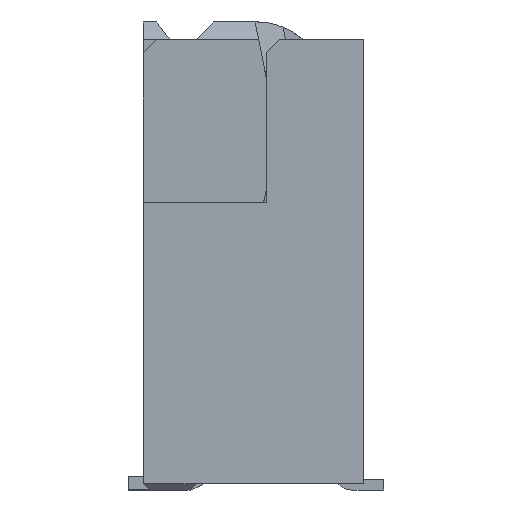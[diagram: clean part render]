
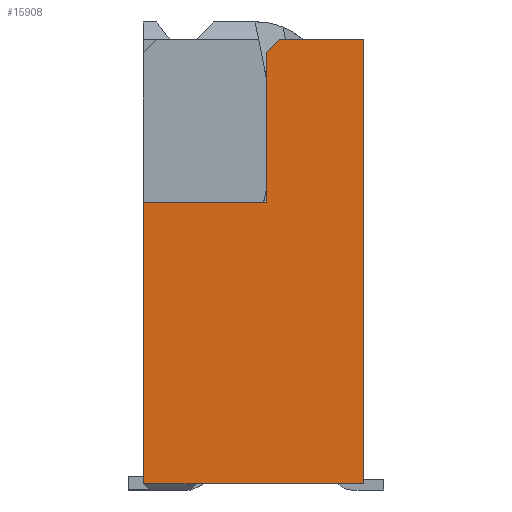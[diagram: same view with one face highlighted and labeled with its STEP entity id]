
A CAD part, left-side view. The second image highlights one B-rep face of the part: STEP entity #15908.
In plain terms, the highlighted planar face has unit normal (-1, 0, 0).
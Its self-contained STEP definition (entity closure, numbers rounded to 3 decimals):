
#20 = CARTESIAN_POINT ( 'NONE',  ( -10.362, -11.589, 10.562 ) ) ;
#155 = VECTOR ( 'NONE', #10030, 1000. ) ;
#423 = ORIENTED_EDGE ( 'NONE', *, *, #14864, .F. ) ;
#770 = ORIENTED_EDGE ( 'NONE', *, *, #4774, .T. ) ;
#805 = CARTESIAN_POINT ( 'NONE',  ( -10.362, -11.589, 5.512 ) ) ;
#862 = VERTEX_POINT ( 'NONE', #18609 ) ;
#968 = DIRECTION ( 'NONE',  ( 0., 0., -1. ) ) ;
#1142 = LINE ( 'NONE', #11809, #12386 ) ;
#1173 = EDGE_CURVE ( 'NONE', #4534, #16111, #5350, .T. ) ;
#1195 = EDGE_CURVE ( 'NONE', #13524, #16111, #5537, .T. ) ;
#2044 = EDGE_LOOP ( 'NONE', ( #770, #13965, #15788, #15135, #8833, #11075, #16468, #423 ) ) ;
#2511 = VECTOR ( 'NONE', #3486, 1000. ) ;
#2830 = DIRECTION ( 'NONE',  ( 0., 0., -1. ) ) ;
#2848 = VERTEX_POINT ( 'NONE', #12592 ) ;
#3486 = DIRECTION ( 'NONE',  ( 0., 1., 0. ) ) ;
#4534 = VERTEX_POINT ( 'NONE', #14751 ) ;
#4774 = EDGE_CURVE ( 'NONE', #10839, #13524, #12545, .T. ) ;
#4961 = VECTOR ( 'NONE', #13984, 1000. ) ;
#5082 = CARTESIAN_POINT ( 'NONE',  ( -10.362, -11.589, 5.512 ) ) ;
#5350 = LINE ( 'NONE', #10607, #155 ) ;
#5532 = CARTESIAN_POINT ( 'NONE',  ( -10.362, -12.989, 8.712 ) ) ;
#5537 = LINE ( 'NONE', #5921, #9392 ) ;
#5571 = VECTOR ( 'NONE', #2830, 1000. ) ;
#5921 = CARTESIAN_POINT ( 'NONE',  ( -10.362, -11.589, 10.562 ) ) ;
#6996 = DIRECTION ( 'NONE',  ( 0., -1., 0. ) ) ;
#8433 = AXIS2_PLACEMENT_3D ( 'NONE', #14667, #16731, #15157 ) ;
#8833 = ORIENTED_EDGE ( 'NONE', *, *, #9383, .F. ) ;
#9383 = EDGE_CURVE ( 'NONE', #11121, #862, #11590, .T. ) ;
#9392 = VECTOR ( 'NONE', #968, 1000. ) ;
#9624 = CARTESIAN_POINT ( 'NONE',  ( -10.362, -14.089, 10.562 ) ) ;
#9633 = CARTESIAN_POINT ( 'NONE',  ( -10.362, -11.589, 8.712 ) ) ;
#9777 = VECTOR ( 'NONE', #6996, 1000. ) ;
#10030 = DIRECTION ( 'NONE',  ( 0., 1., 0. ) ) ;
#10468 = VECTOR ( 'NONE', #13462, 1000. ) ;
#10493 = PLANE ( 'NONE',  #8433 ) ;
#10607 = CARTESIAN_POINT ( 'NONE',  ( -10.362, -12.189, 5.512 ) ) ;
#10839 = VERTEX_POINT ( 'NONE', #5532 ) ;
#11075 = ORIENTED_EDGE ( 'NONE', *, *, #19707, .F. ) ;
#11121 = VERTEX_POINT ( 'NONE', #9624 ) ;
#11590 = LINE ( 'NONE', #13089, #5571 ) ;
#11770 = EDGE_CURVE ( 'NONE', #4534, #862, #14458, .T. ) ;
#11809 = CARTESIAN_POINT ( 'NONE',  ( -10.362, -12.364, 9.787 ) ) ;
#12386 = VECTOR ( 'NONE', #13299, 1000. ) ;
#12545 = LINE ( 'NONE', #18594, #2511 ) ;
#12592 = CARTESIAN_POINT ( 'NONE',  ( -10.362, -12.989, 10.412 ) ) ;
#13089 = CARTESIAN_POINT ( 'NONE',  ( -10.362, -14.089, 10.562 ) ) ;
#13299 = DIRECTION ( 'NONE',  ( 0., -0.707, 0.707 ) ) ;
#13462 = DIRECTION ( 'NONE',  ( 0., -1., 0. ) ) ;
#13524 = VERTEX_POINT ( 'NONE', #9633 ) ;
#13575 = LINE ( 'NONE', #20, #10468 ) ;
#13783 = EDGE_CURVE ( 'NONE', #2848, #18024, #1142, .T. ) ;
#13786 = CARTESIAN_POINT ( 'NONE',  ( -10.362, -12.989, 9.512 ) ) ;
#13965 = ORIENTED_EDGE ( 'NONE', *, *, #1195, .T. ) ;
#13984 = DIRECTION ( 'NONE',  ( 0., 0., 1. ) ) ;
#14392 = CARTESIAN_POINT ( 'NONE',  ( -10.362, -13.139, 10.562 ) ) ;
#14458 = LINE ( 'NONE', #805, #9777 ) ;
#14667 = CARTESIAN_POINT ( 'NONE',  ( -10.362, -11.589, 10.562 ) ) ;
#14751 = CARTESIAN_POINT ( 'NONE',  ( -10.362, -12.189, 5.512 ) ) ;
#14864 = EDGE_CURVE ( 'NONE', #10839, #2848, #16647, .T. ) ;
#15135 = ORIENTED_EDGE ( 'NONE', *, *, #11770, .T. ) ;
#15157 = DIRECTION ( 'NONE',  ( 0., 0., 1. ) ) ;
#15788 = ORIENTED_EDGE ( 'NONE', *, *, #1173, .F. ) ;
#15908 = ADVANCED_FACE ( 'NONE', ( #18022 ), #10493, .T. ) ;
#16111 = VERTEX_POINT ( 'NONE', #5082 ) ;
#16468 = ORIENTED_EDGE ( 'NONE', *, *, #13783, .F. ) ;
#16647 = LINE ( 'NONE', #13786, #4961 ) ;
#16731 = DIRECTION ( 'NONE',  ( -1., 0., 0. ) ) ;
#18022 = FACE_OUTER_BOUND ( 'NONE', #2044, .T. ) ;
#18024 = VERTEX_POINT ( 'NONE', #14392 ) ;
#18594 = CARTESIAN_POINT ( 'NONE',  ( -10.362, -12.989, 8.712 ) ) ;
#18609 = CARTESIAN_POINT ( 'NONE',  ( -10.362, -14.089, 5.512 ) ) ;
#19707 = EDGE_CURVE ( 'NONE', #18024, #11121, #13575, .T. ) ;
